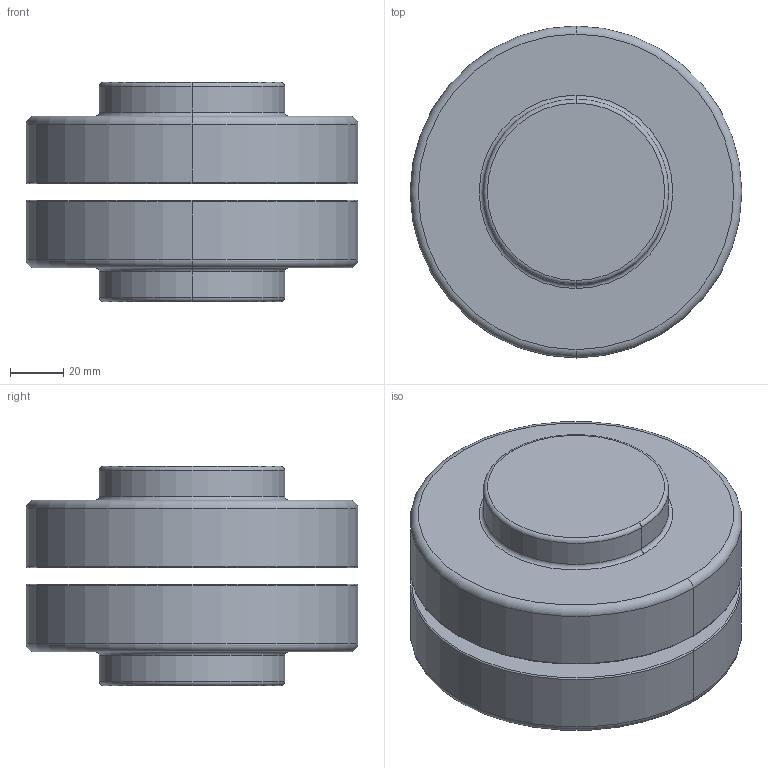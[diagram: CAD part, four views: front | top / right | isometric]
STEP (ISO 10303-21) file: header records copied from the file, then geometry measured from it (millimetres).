
FILE_DESCRIPTION (( 'STEP AP214' ), '1' );
FILE_NAME ('mobac_2x MTD-20 (ohne Bohrung).STEP', '2023-05-09T08:11:37', ( '' ), ( '' ), 'SwSTEP 2.0', 'SolidWorks 2022', '' );
FILE_SCHEMA (( 'AUTOMOTIVE_DESIGN' ));
Length unit declared in the file: millimetre
Products named in the file (1): mobac_2x MTD-20 (ohne Bohrung)
Bounding box: 124.97 x 124.97 x 82.55 mm (x, y, z)
Volume: 691526.9 mm3; surface area: 74886.6 mm2
Topology: 2 solids, 2 shells, 36 faces, 68 edges, 40 vertices
Faces by surface type: torus 16, cylinder 12, plane 8
Entity records: 963 total; most frequent: DIRECTION 198, CARTESIAN_POINT 145, ORIENTED_EDGE 136, AXIS2_PLACEMENT_3D 93, EDGE_CURVE 68, CIRCLE 56, VERTEX_POINT 40, EDGE_LOOP 40
